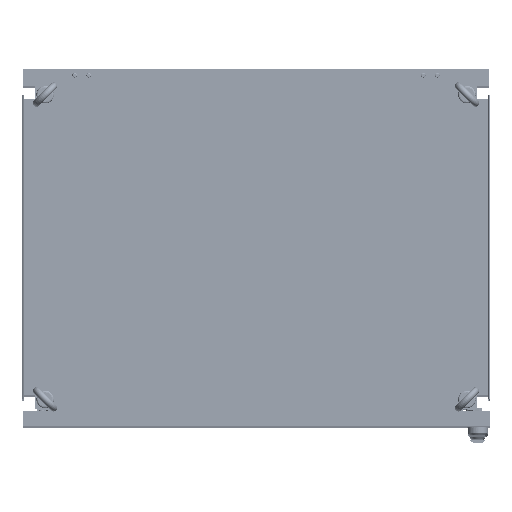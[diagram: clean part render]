
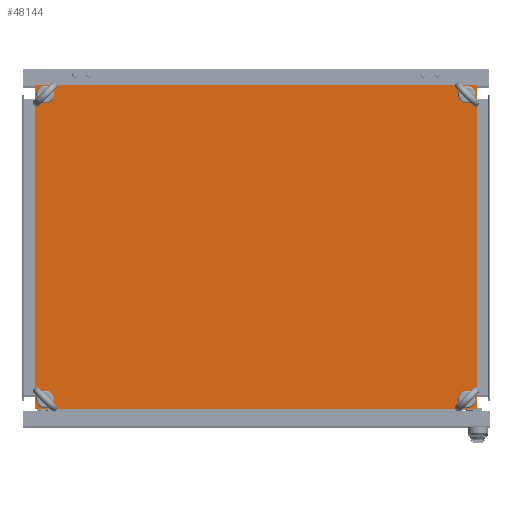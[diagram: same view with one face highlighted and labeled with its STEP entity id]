
A CAD part, top view. The second image highlights one B-rep face of the part: STEP entity #48144.
In plain terms, the highlighted planar face has unit normal (0, 0, 1).
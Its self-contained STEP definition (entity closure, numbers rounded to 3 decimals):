
#67=VERTEX_LOOP('',#33992);
#68=VERTEX_LOOP('',#33993);
#69=VERTEX_LOOP('',#33994);
#70=VERTEX_LOOP('',#33995);
#5692=LINE('',#77089,#10684);
#5693=LINE('',#77092,#10685);
#5694=LINE('',#77094,#10686);
#5695=LINE('',#77096,#10687);
#10684=VECTOR('',#63443,1000.);
#10685=VECTOR('',#63444,1000.);
#10686=VECTOR('',#63445,1000.);
#10687=VECTOR('',#63446,1000.);
#21133=ORIENTED_EDGE('',*,*,#29064,.F.);
#21134=ORIENTED_EDGE('',*,*,#29065,.F.);
#21135=ORIENTED_EDGE('',*,*,#29066,.F.);
#21136=ORIENTED_EDGE('',*,*,#29067,.F.);
#21137=ORIENTED_EDGE('',*,*,#29068,.F.);
#21138=ORIENTED_EDGE('',*,*,#29069,.F.);
#21139=ORIENTED_EDGE('',*,*,#29070,.F.);
#21140=ORIENTED_EDGE('',*,*,#29071,.F.);
#29064=EDGE_CURVE('',#33988,#33988,#35827,.T.);
#29065=EDGE_CURVE('',#33989,#33989,#35828,.T.);
#29066=EDGE_CURVE('',#33990,#33990,#35829,.T.);
#29067=EDGE_CURVE('',#33991,#33991,#35830,.T.);
#29068=EDGE_CURVE('',#33996,#33997,#5692,.T.);
#29069=EDGE_CURVE('',#33998,#33996,#5693,.T.);
#29070=EDGE_CURVE('',#33999,#33998,#5694,.T.);
#29071=EDGE_CURVE('',#33997,#33999,#5695,.T.);
#33988=VERTEX_POINT('',#77078);
#33989=VERTEX_POINT('',#77080);
#33990=VERTEX_POINT('',#77082);
#33991=VERTEX_POINT('',#77084);
#33992=VERTEX_POINT('',#77085);
#33993=VERTEX_POINT('',#77086);
#33994=VERTEX_POINT('',#77087);
#33995=VERTEX_POINT('',#77088);
#33996=VERTEX_POINT('',#77090);
#33997=VERTEX_POINT('',#77091);
#33998=VERTEX_POINT('',#77093);
#33999=VERTEX_POINT('',#77095);
#35827=CIRCLE('',#53118,6.5);
#35828=CIRCLE('',#53119,6.5);
#35829=CIRCLE('',#53120,6.5);
#35830=CIRCLE('',#53121,6.5);
#39352=EDGE_LOOP('',(#21133));
#39353=EDGE_LOOP('',(#21134));
#39354=EDGE_LOOP('',(#21135));
#39355=EDGE_LOOP('',(#21136));
#39356=EDGE_LOOP('',(#21137,#21138,#21139,#21140));
#43512=FACE_BOUND('',#39352,.T.);
#43513=FACE_BOUND('',#39353,.T.);
#43514=FACE_BOUND('',#39354,.T.);
#43515=FACE_BOUND('',#39355,.T.);
#43516=FACE_BOUND('',#67,.T.);
#43517=FACE_BOUND('',#68,.T.);
#43518=FACE_BOUND('',#69,.T.);
#43519=FACE_BOUND('',#70,.T.);
#43520=FACE_BOUND('',#39356,.T.);
#46034=PLANE('',#53117);
#48144=ADVANCED_FACE('',(#43512,#43513,#43514,#43515,#43516,#43517,#43518,
#43519,#43520),#46034,.F.);
#53117=AXIS2_PLACEMENT_3D('',#77076,#63433,#63434);
#53118=AXIS2_PLACEMENT_3D('',#77077,#63435,#63436);
#53119=AXIS2_PLACEMENT_3D('',#77079,#63437,#63438);
#53120=AXIS2_PLACEMENT_3D('',#77081,#63439,#63440);
#53121=AXIS2_PLACEMENT_3D('',#77083,#63441,#63442);
#63433=DIRECTION('',(0.,0.,-1.));
#63434=DIRECTION('',(-1.,0.,0.));
#63435=DIRECTION('',(0.,0.,1.));
#63436=DIRECTION('',(1.,0.,0.));
#63437=DIRECTION('',(0.,0.,1.));
#63438=DIRECTION('',(1.,0.,0.));
#63439=DIRECTION('',(0.,0.,1.));
#63440=DIRECTION('',(1.,0.,0.));
#63441=DIRECTION('',(0.,0.,1.));
#63442=DIRECTION('',(1.,0.,0.));
#63443=DIRECTION('',(0.,1.,0.));
#63444=DIRECTION('',(-1.,0.,0.));
#63445=DIRECTION('',(0.,-1.,0.));
#63446=DIRECTION('',(1.,0.,0.));
#77076=CARTESIAN_POINT('',(0.,0.,0.));
#77077=CARTESIAN_POINT('',(360.5,260.5,0.));
#77078=CARTESIAN_POINT('',(367.,260.5,0.));
#77079=CARTESIAN_POINT('',(-360.5,260.5,0.));
#77080=CARTESIAN_POINT('',(-354.,260.5,0.));
#77081=CARTESIAN_POINT('',(360.5,-260.5,0.));
#77082=CARTESIAN_POINT('',(367.,-260.5,0.));
#77083=CARTESIAN_POINT('',(-360.5,-260.5,0.));
#77084=CARTESIAN_POINT('',(-354.,-260.5,0.));
#77085=CARTESIAN_POINT('',(-374.201,274.201,0.));
#77086=CARTESIAN_POINT('',(-374.2,-274.201,0.));
#77087=CARTESIAN_POINT('',(374.2,274.201,0.));
#77088=CARTESIAN_POINT('',(374.201,-274.201,0.));
#77089=CARTESIAN_POINT('',(-377.,-277.,0.));
#77090=CARTESIAN_POINT('',(-377.,-277.,0.));
#77091=CARTESIAN_POINT('',(-377.,277.,0.));
#77092=CARTESIAN_POINT('',(377.,-277.,0.));
#77093=CARTESIAN_POINT('',(377.,-277.,0.));
#77094=CARTESIAN_POINT('',(377.,277.,0.));
#77095=CARTESIAN_POINT('',(377.,277.,0.));
#77096=CARTESIAN_POINT('',(-377.,277.,0.));
